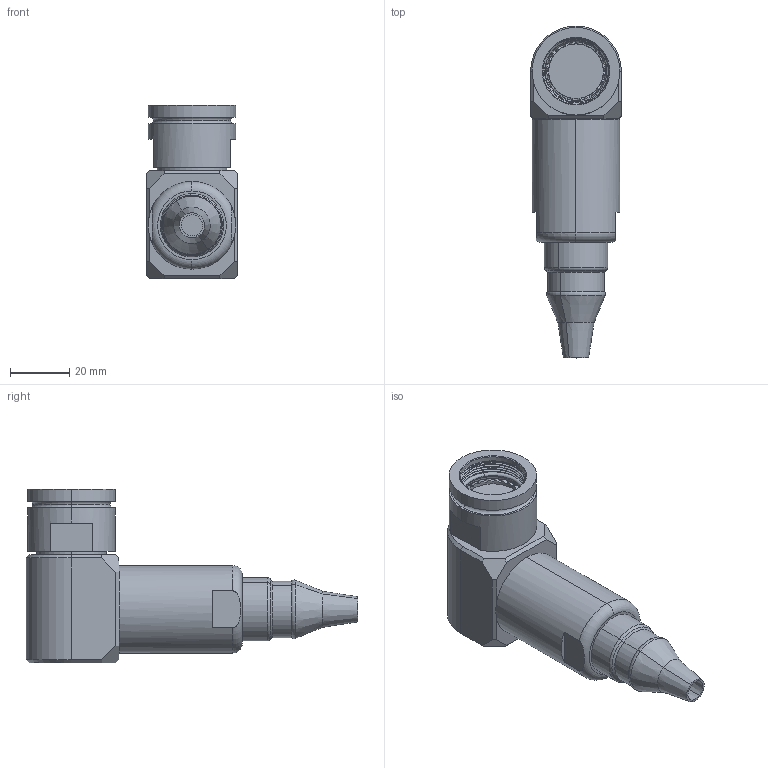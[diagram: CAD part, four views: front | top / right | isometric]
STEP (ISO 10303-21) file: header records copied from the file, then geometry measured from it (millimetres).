
FILE_DESCRIPTION (( 'STEP AP214' ), '1' );
FILE_NAME ('Q38EBSHELL-90X-15-XXXX-HX.STEP', '2025-09-19T15:35:27', ( '' ), ( '' ), 'SwSTEP 2.0', 'SolidWorks 2024', '' );
FILE_SCHEMA (( 'AUTOMOTIVE_DESIGN' ));
Length unit declared in the file: millimetre
Products named in the file (1): Q38EBSHELL-90X-15-XXXX-HX
Bounding box: 30.56 x 111.85 x 58.57 mm (x, y, z)
Volume: 75886.5 mm3; surface area: 17107.3 mm2
Topology: 2 solids, 4 shells, 235 faces, 602 edges, 390 vertices
Faces by surface type: plane 141, cylinder 45, cone 26, torus 14, bspline 9
Entity records: 9723 total; most frequent: CARTESIAN_POINT 4221, ORIENTED_EDGE 1204, DIRECTION 1135, EDGE_CURVE 602, AXIS2_PLACEMENT_3D 455, VERTEX_POINT 390, EDGE_LOOP 252, ADVANCED_FACE 235
